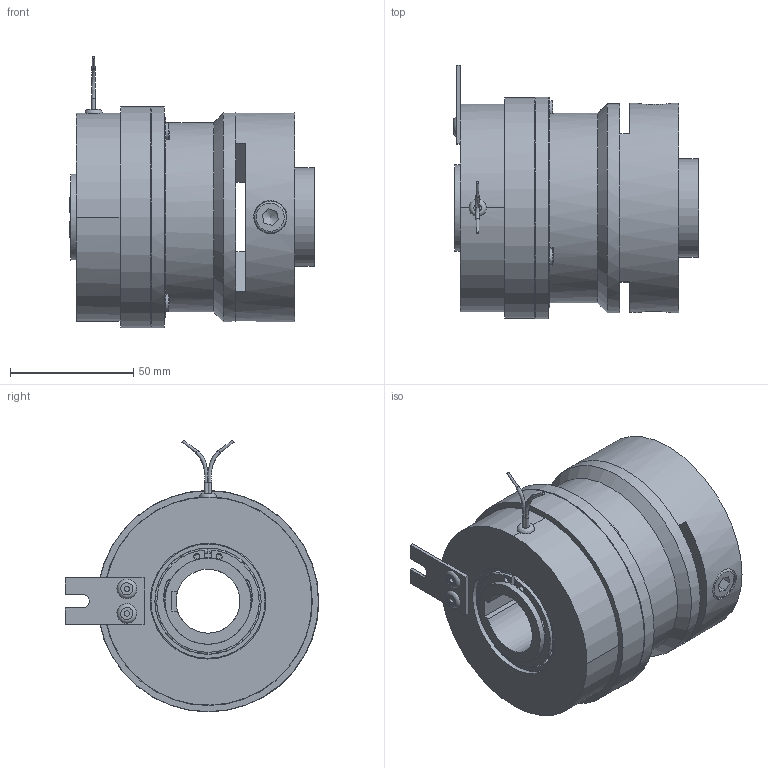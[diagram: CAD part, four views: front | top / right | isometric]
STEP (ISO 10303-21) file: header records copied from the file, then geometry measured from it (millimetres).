
FILE_DESCRIPTION(/* description */ (''),/* implementation_level */ '2;1');
FILE_NAME(/* name */ 'X:\INVENTOR\DISEGNI\08_Freni_Friz_Elettmag_Monodisco\08_26 EMSL_DF\EMSL_DF STEP\08_26_090_51 EMSL090_DF-GE@STEP.stp',/* time_stamp */ '2018-04-24T10:11:07+02:00',/* author */ ('stefano'),/* organization */ (''),/* preprocessor_version */ 'ST-DEVELOPER v17',/* originating_system */ 'Autodesk Inventor 2018',/* authorisation */ '');
FILE_SCHEMA (('AUTOMOTIVE_DESIGN { 1 0 10303 214 3 1 1 }'));
Length unit declared in the file: millimetre
Products named in the file (1): 08_26_090_51 EMSL090_DF-GE_Substitute_1
Bounding box: 99.6 x 103 x 110.47 mm (x, y, z)
Volume: 383376.8 mm3; surface area: 102884.6 mm2
Topology: 3 solids, 3 shells, 469 faces, 1454 edges, 967 vertices
Faces by surface type: cylinder 195, plane 187, torus 44, cone 24, sphere 17, bspline 2
Full cylindrical faces by diameter (mm): 1.154 x2, 1.5 x4, 2.2 x2, 2.5 x6, 4.134 x3, 5.1 x9, 6 x1, 6.647 x2, 7 x3, 13 x4, 13.5 x4, 33 x1, 35 x5, 38.84 x2, 39 x2, 40 x3, 43.16 x2, 46.7 x1, 47 x5, 49.5 x1, 54 x1, 77 x1, 80 x1, 84.8 x1, 85 x2, 89.8 x1, 90 x1
Entity records: 18867 total; most frequent: CARTESIAN_POINT 5074, DIRECTION 3008, ORIENTED_EDGE 2834, EDGE_CURVE 1417, AXIS2_PLACEMENT_3D 1305, VERTEX_POINT 968, CIRCLE 837, EDGE_LOOP 604
